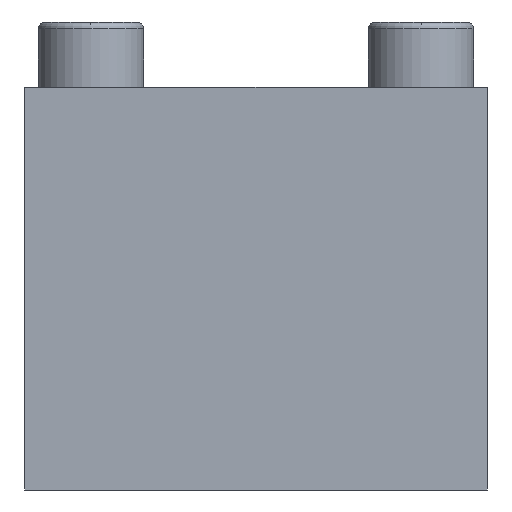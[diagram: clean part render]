
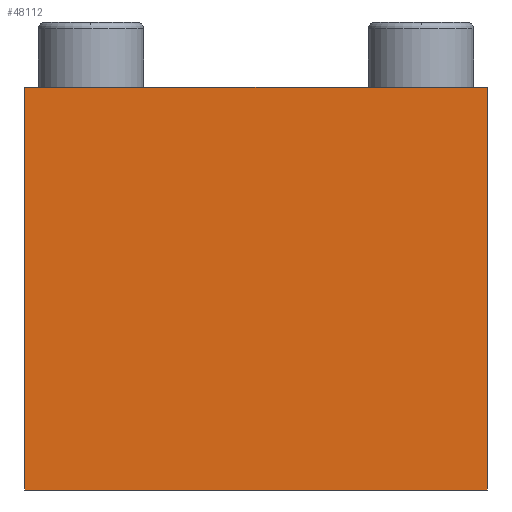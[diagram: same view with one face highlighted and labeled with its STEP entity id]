
A CAD part, front view. The second image highlights one B-rep face of the part: STEP entity #48112.
In plain terms, the highlighted planar face has unit normal (0, -1, 0).
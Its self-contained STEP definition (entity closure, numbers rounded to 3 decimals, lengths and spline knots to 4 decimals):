
#2686=FACE_OUTER_BOUND('',#5515,.T.);
#5515=EDGE_LOOP('',(#31963,#31964,#31965,#31966));
#8178=LINE('',#62257,#13422);
#9509=LINE('',#67534,#14753);
#9512=LINE('',#67540,#14756);
#9513=LINE('',#67541,#14757);
#13422=VECTOR('',#52782,7.);
#14753=VECTOR('',#54347,6.1);
#14756=VECTOR('',#54352,6.1);
#14757=VECTOR('',#54353,7.);
#18666=VERTEX_POINT('',#62254);
#18667=VERTEX_POINT('',#62256);
#20560=VERTEX_POINT('',#67533);
#20562=VERTEX_POINT('',#67539);
#23232=EDGE_CURVE('',#18666,#18667,#8178,.T.);
#25126=EDGE_CURVE('',#18666,#20560,#9509,.T.);
#25129=EDGE_CURVE('',#18667,#20562,#9512,.T.);
#25130=EDGE_CURVE('',#20562,#20560,#9513,.T.);
#31963=ORIENTED_EDGE('',*,*,#25129,.F.);
#31964=ORIENTED_EDGE('',*,*,#23232,.F.);
#31965=ORIENTED_EDGE('',*,*,#25126,.T.);
#31966=ORIENTED_EDGE('',*,*,#25130,.F.);
#43629=PLANE('',#50781);
#48112=ADVANCED_FACE('',(#2686),#43629,.T.);
#50781=AXIS2_PLACEMENT_3D('',#67538,#54350,#54351);
#52782=DIRECTION('',(1.,0.,0.));
#54347=DIRECTION('',(0.,0.,-1.));
#54350=DIRECTION('center_axis',(0.,-1.,0.));
#54351=DIRECTION('ref_axis',(-1.,0.,0.));
#54352=DIRECTION('',(0.,0.,-1.));
#54353=DIRECTION('',(-1.,0.,0.));
#62254=CARTESIAN_POINT('',(-3.5,-20.,4.85));
#62256=CARTESIAN_POINT('',(3.5,-20.,4.85));
#62257=CARTESIAN_POINT('',(3.5,-20.,4.85));
#67533=CARTESIAN_POINT('',(-3.5,-20.,-1.25));
#67534=CARTESIAN_POINT('',(-3.5,-20.,0.));
#67538=CARTESIAN_POINT('Origin',(3.5,-20.,3.6));
#67539=CARTESIAN_POINT('',(3.5,-20.,-1.25));
#67540=CARTESIAN_POINT('',(3.5,-20.,0.));
#67541=CARTESIAN_POINT('',(3.5,-20.,-1.25));
